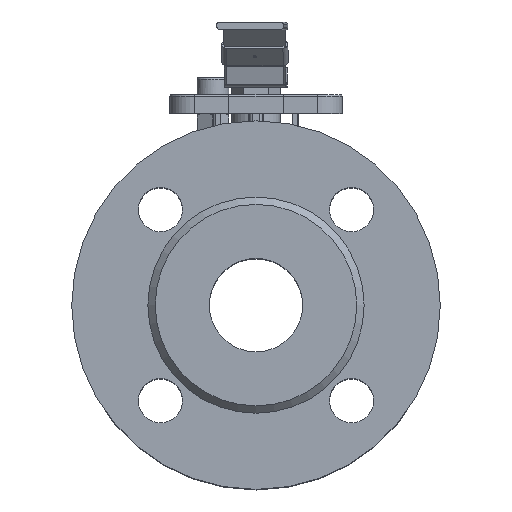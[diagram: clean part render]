
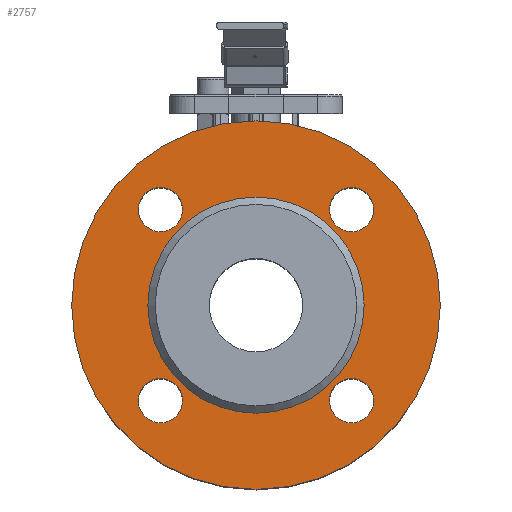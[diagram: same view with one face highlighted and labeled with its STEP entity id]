
A CAD part, top view. The second image highlights one B-rep face of the part: STEP entity #2757.
In plain terms, the highlighted planar face has unit normal (0, 0, 1).
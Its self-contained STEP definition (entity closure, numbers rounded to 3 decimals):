
#2757=ADVANCED_FACE('',(#8250,#8252,#8254,#8256,#8258,#8260),#8262,.F.);
#8250=FACE_BOUND('',#8251,.T.);
#8251=EDGE_LOOP('',(#13119));
#8252=FACE_BOUND('',#8253,.T.);
#8253=EDGE_LOOP('',(#13120));
#8254=FACE_BOUND('',#8255,.T.);
#8255=EDGE_LOOP('',(#13121));
#8256=FACE_BOUND('',#8257,.T.);
#8257=EDGE_LOOP('',(#13122));
#8258=FACE_BOUND('',#8259,.T.);
#8259=EDGE_LOOP('',(#13123));
#8260=FACE_BOUND('',#8261,.T.);
#8261=EDGE_LOOP('',(#13124));
#8262=PLANE('',#8263);
#8263=AXIS2_PLACEMENT_3D('',#8264,#8265,#8266);
#8264=CARTESIAN_POINT('',(0.,0.,57.961));
#8265=DIRECTION('',(0.,0.,-1.));
#8266=DIRECTION('',(0.,1.,0.));
#13119=ORIENTED_EDGE('',*,*,#15212,.F.);
#13120=ORIENTED_EDGE('',*,*,#15213,.T.);
#13121=ORIENTED_EDGE('',*,*,#15214,.T.);
#13122=ORIENTED_EDGE('',*,*,#15215,.T.);
#13123=ORIENTED_EDGE('',*,*,#15376,.T.);
#13124=ORIENTED_EDGE('',*,*,#15230,.T.);
#15212=EDGE_CURVE('',#17429,#17429,#17430,.T.);
#15213=EDGE_CURVE('',#17431,#17431,#17432,.F.);
#15214=EDGE_CURVE('',#17433,#17433,#17434,.F.);
#15215=EDGE_CURVE('',#17435,#17435,#17436,.F.);
#15230=EDGE_CURVE('',#17457,#17457,#17458,.F.);
#15376=EDGE_CURVE('',#17695,#17695,#17696,.T.);
#17429=VERTEX_POINT('',#25857);
#17430=CIRCLE('',#25858,75.);
#17431=VERTEX_POINT('',#25862);
#17432=CIRCLE('',#25863,9.);
#17433=VERTEX_POINT('',#25867);
#17434=CIRCLE('',#25868,9.);
#17435=VERTEX_POINT('',#25872);
#17436=CIRCLE('',#25873,9.);
#17457=VERTEX_POINT('',#26079);
#17458=CIRCLE('',#26080,9.);
#17695=VERTEX_POINT('',#27678);
#17696=CIRCLE('',#27679,44.);
#25857=CARTESIAN_POINT('',(0.,75.,57.961));
#25858=AXIS2_PLACEMENT_3D('',#25859,#25860,#25861);
#25859=CARTESIAN_POINT('',(0.,0.,57.961));
#25860=DIRECTION('',(0.,0.,-1.));
#25861=DIRECTION('',(0.,1.,0.));
#25862=CARTESIAN_POINT('',(-38.891,47.891,57.961));
#25863=AXIS2_PLACEMENT_3D('',#25864,#25865,#25866);
#25864=CARTESIAN_POINT('',(-38.891,38.891,57.961));
#25865=DIRECTION('',(0.,0.,1.));
#25866=DIRECTION('',(0.,1.,0.));
#25867=CARTESIAN_POINT('',(-47.891,-38.891,57.961));
#25868=AXIS2_PLACEMENT_3D('',#25869,#25870,#25871);
#25869=CARTESIAN_POINT('',(-38.891,-38.891,57.961));
#25870=DIRECTION('',(0.,0.,1.));
#25871=DIRECTION('',(-1.,0.,0.));
#25872=CARTESIAN_POINT('',(38.891,-47.891,57.961));
#25873=AXIS2_PLACEMENT_3D('',#25874,#25875,#25876);
#25874=CARTESIAN_POINT('',(38.891,-38.891,57.961));
#25875=DIRECTION('',(0.,0.,1.));
#25876=DIRECTION('',(0.,-1.,0.));
#26079=CARTESIAN_POINT('',(47.891,38.891,57.961));
#26080=AXIS2_PLACEMENT_3D('',#26081,#26082,#26083);
#26081=CARTESIAN_POINT('',(38.891,38.891,57.961));
#26082=DIRECTION('',(0.,0.,1.));
#26083=DIRECTION('',(1.,0.,0.));
#27678=CARTESIAN_POINT('',(0.,44.,57.961));
#27679=AXIS2_PLACEMENT_3D('',#27680,#27681,#27682);
#27680=CARTESIAN_POINT('',(0.,0.,57.961));
#27681=DIRECTION('',(0.,0.,-1.));
#27682=DIRECTION('',(0.,1.,0.));
